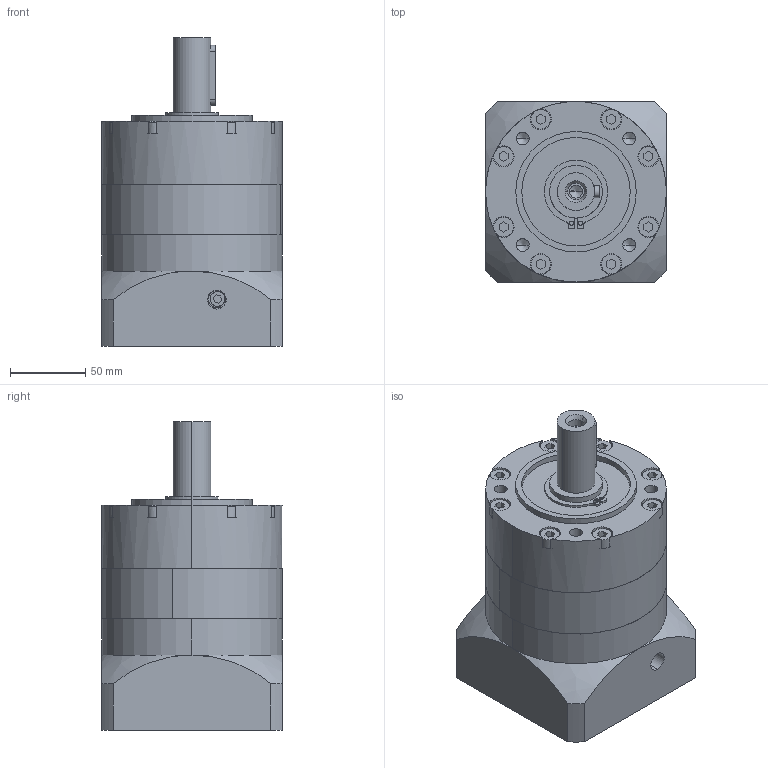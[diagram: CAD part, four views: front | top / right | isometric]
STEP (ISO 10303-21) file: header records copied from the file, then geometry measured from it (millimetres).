
FILE_DESCRIPTION (( 'STEP AP214' ), '1' );
FILE_NAME ('PRL120-L1 目录1.STEP', '2020-09-14T08:14:44', ( '微软用户' ), ( '微软中国' ), 'SwSTEP 2.0', 'SolidWorks 2014', '' );
FILE_SCHEMA (( 'AUTOMOTIVE_DESIGN' ));
Length unit declared in the file: millimetre
Products named in the file (15): PLE120 蟀諉啣-準梓-芞醱; 囀鞠褒蹟佪 M6x20; PLE120 奻屳唳; PRL120-L1 Ŀ¼1; 粣創-6007 40x68x15; 邧埴瑩 8x7x40; PLE120 狟屳唳; PLE120 κｳﾝﾈｦ_ﾒｻｼｶﾄﾚｳﾝﾈｦ
Assembly tree (7 placements, depth 2):
  PLE120 蟀諉啣-準梓-芞醱
  囀鞠褒蹟佪 M6x20
  PLE120 奻屳唳
  PRL120-L1 Ŀ¼1
    PLE120 奻屳唳
    囀鞠褒蹟佪 M6x20
    PLE120 蟀諉啣-準梓-芞醱
    PLE120 κｳﾝﾈｦ_ﾒｻｼｶﾄﾚｳﾝﾈｦ
    PLE120 狟屳唳
    邧埴瑩 8x7x40
    粣創-6007 40x68x15
  粣創-6007 40x68x15
Bounding box: 120 x 120 x 205 mm (x, y, z)
Volume: 1625780.6 mm3; surface area: 226685.8 mm2
Topology: 7 solids, 15 shells, 546 faces, 1450 edges, 934 vertices
Faces by surface type: plane 191, cylinder 185, bspline 148, cone 22
Entity records: 28526 total; most frequent: CARTESIAN_POINT 9450, ORIENTED_EDGE 2832, DIRECTION 2417, EDGE_CURVE 1416, AXIS2_PLACEMENT_3D 983, VERTEX_POINT 926, EDGE_LOOP 640, CIRCLE 574
